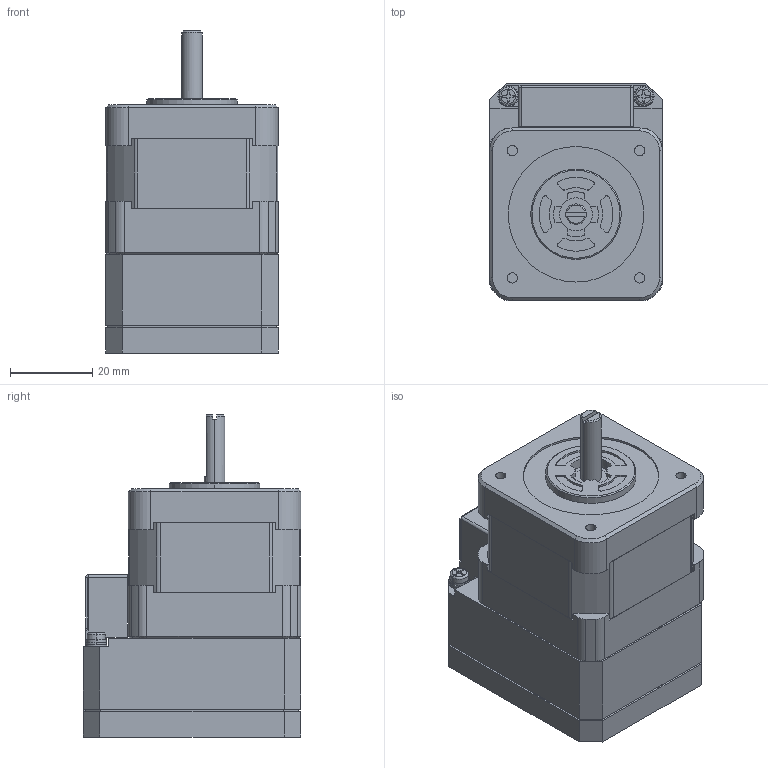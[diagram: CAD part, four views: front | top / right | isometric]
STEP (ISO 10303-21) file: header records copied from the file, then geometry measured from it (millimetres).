
FILE_DESCRIPTION (( 'STEP AP203' ), '1' );
FILE_NAME ('CM1-X-17S30C.STEP', '2012-02-06T14:50:26', ( 'render' ), ( '' ), 'SwSTEP 2.0', 'SolidWorks 2011', '' );
FILE_SCHEMA (( 'CONFIG_CONTROL_DESIGN' ));
Length unit declared in the file: millimetre
Products named in the file (1): CM1-X-17S30C
Bounding box: 42 x 53 x 78.4 mm (x, y, z)
Volume: 111167.3 mm3; surface area: 22279.1 mm2
Topology: 1 solids, 1 shells, 849 faces, 2385 edges, 1538 vertices
Faces by surface type: plane 601, cylinder 215, cone 29, bspline 4
Entity records: 27357 total; most frequent: CARTESIAN_POINT 4963, ORIENTED_EDGE 4754, DIRECTION 4538, EDGE_CURVE 2377, LINE 1880, VECTOR 1880, VERTEX_POINT 1538, AXIS2_PLACEMENT_3D 1329
